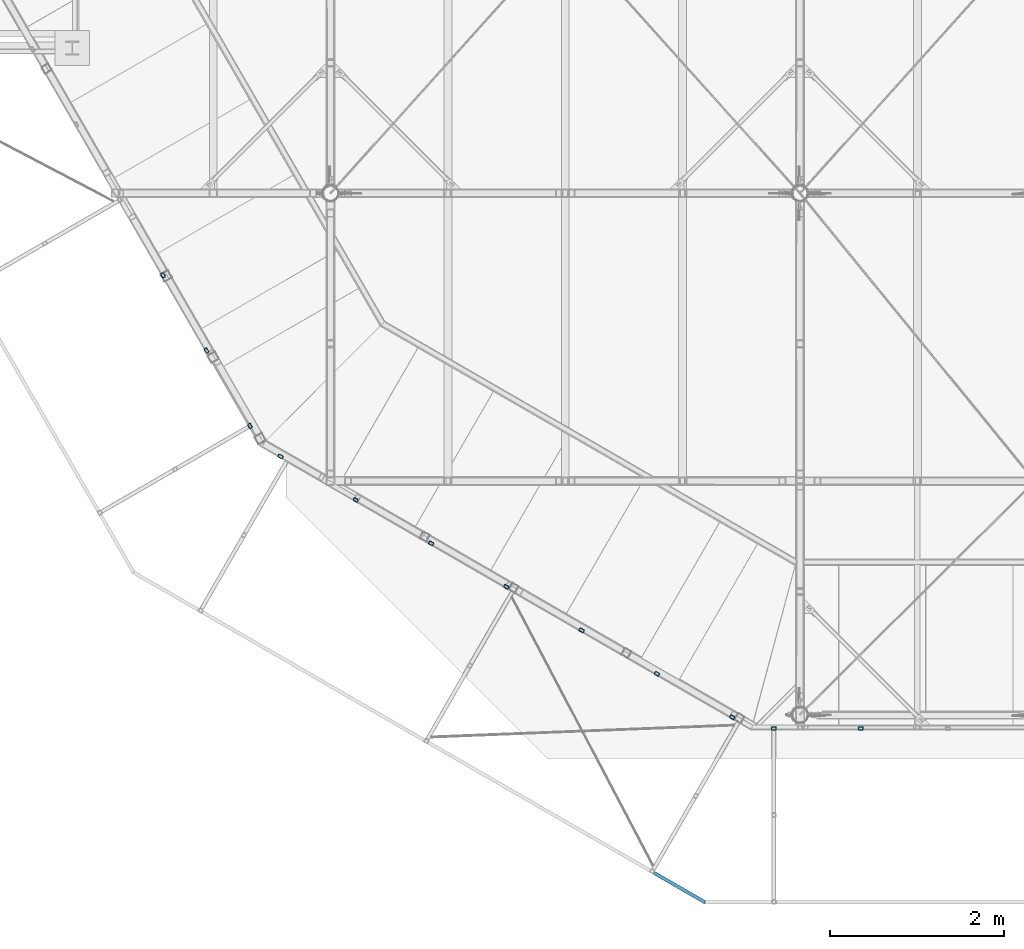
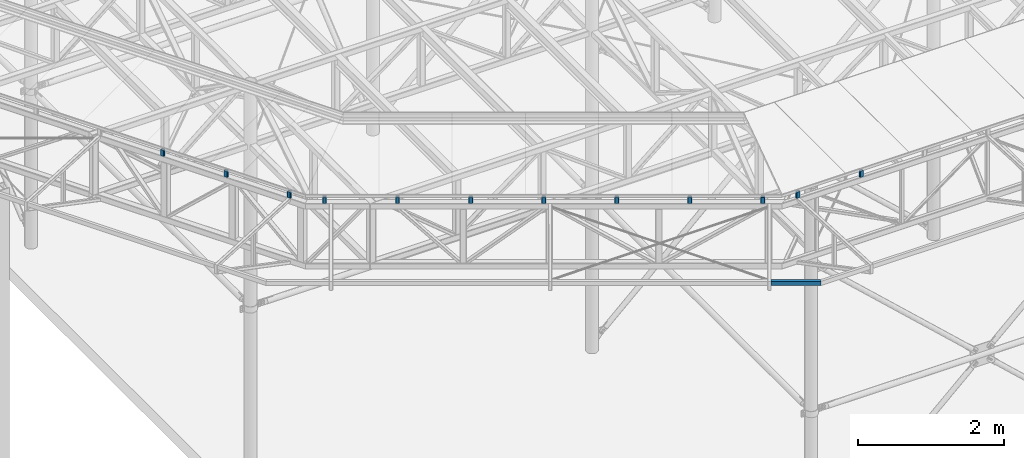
# One storey, part 21 of 132: 13 beams, 13 elements without a shape of their own.
"""IFC2X3 building model written with IfcOpenShell, lengths in millimetres."""

from ifc_helpers import new_model, si_unit, frame, origin_with_axes, origin_2d_with_axis, place, context, subcontext, project, spatial, hollow_rectangle, u_section, extrude, clip, halfspace, material, type_object, element, aggregate, save


model = new_model("IFC2X3")

# Units and contexts
model_context = context("Model", 3, precision=1e-05, world=origin_with_axes())
body_context = subcontext(model_context, "Body", "Model", "MODEL_VIEW")
ifc_project = project(units=[si_unit("LENGTHUNIT", "METRE", prefix="MILLI"), si_unit("AREAUNIT", "SQUARE_METRE"), si_unit("VOLUMEUNIT", "CUBIC_METRE"), si_unit("MASSUNIT", "GRAM", prefix="KILO"), si_unit("TIMEUNIT", "SECOND"), si_unit("PLANEANGLEUNIT", "RADIAN"), si_unit("SOLIDANGLEUNIT", "STERADIAN"), si_unit("THERMODYNAMICTEMPERATUREUNIT", "DEGREE_CELSIUS"), si_unit("LUMINOUSINTENSITYUNIT", "LUMEN")], contexts=[model_context])

# Site, building, storey
site_placement = place(None, origin_with_axes())
site = spatial("IfcSite", under=ifc_project, at=site_placement, Name="Budowa", CompositionType="ELEMENT")
building_placement = place(site_placement, origin_with_axes())
building = spatial("IfcBuilding", under=site, at=building_placement, Name="Undefined", CompositionType="ELEMENT")
storey_placement = place(building_placement, origin_with_axes())
storey = spatial("IfcBuildingStorey", under=building, at=storey_placement, Name="Undefined", CompositionType="ELEMENT", Elevation=0.0)

# Assembly, beam
assembly_1_placement = place(storey_placement, origin_with_axes())
assembly_1 = element("IfcElementAssembly", 1, at=assembly_1_placement, inside=storey, Name="Steel Assembly", AssemblyPlace="NOTDEFINED", PredefinedType="RIGID_FRAME")
ifc_material = material(Name="STEEL/S235")
beam_type_1 = type_object("IfcBeamType", Name="RHS60*40*6", PredefinedType="NOTDEFINED")
beam_1_placement = place(assembly_1_placement, frame((3098.43647414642, 3324.40577576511, 13984.0000000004), z_axis=(0.5000000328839, -0.866025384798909, 0.0), x_axis=(0.0, 0.0, -1.0)))
beam_1 = element("IfcBeam", 2, at=beam_1_placement, type_object=beam_type_1, material=ifc_material, Name="BEAM", ObjectType="RHS60*40*6", context=body_context, shape_type="SweptSolid", body=[
    extrude(hollow_rectangle(XDim=40.0, YDim=60.0, WallThickness=6.0, InnerFilletRadius=6.0, OuterFilletRadius=12.0, at=origin_2d_with_axis()), frame((103.597744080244, 0.0, 0.0), z_axis=(-1.0, 0.0, 0.0), x_axis=(0.0, -1.0, 0.0)), (0.0, 0.0, 1.0), 103.6),
])
aggregate(assembly_1, [beam_1])

assembly_2_placement = place(storey_placement, origin_with_axes())
assembly_2 = element("IfcElementAssembly", 3, at=assembly_2_placement, inside=storey, Name="Steel Assembly", AssemblyPlace="NOTDEFINED", PredefinedType="RIGID_FRAME")
beam_2_placement = place(assembly_2_placement, frame((2598.43644122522, 4190.43116054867, 13984.0000000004), z_axis=(0.5000000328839, -0.866025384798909, 0.0), x_axis=(0.0, 0.0, -1.0)))
beam_2 = element("IfcBeam", 4, at=beam_2_placement, type_object=beam_type_1, material=ifc_material, Name="BEAM", ObjectType="RHS60*40*6", context=body_context, shape_type="SweptSolid", body=[
    extrude(hollow_rectangle(XDim=40.0, YDim=60.0, WallThickness=6.0, InnerFilletRadius=6.0, OuterFilletRadius=12.0, at=origin_2d_with_axis()), frame((103.597744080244, 0.0, 0.0), z_axis=(-1.0, 0.0, 0.0), x_axis=(0.0, -1.0, 0.0)), (0.0, 0.0, 1.0), 103.6),
])
aggregate(assembly_2, [beam_2])

assembly_3_placement = place(storey_placement, origin_with_axes())
assembly_3 = element("IfcElementAssembly", 5, at=assembly_3_placement, inside=storey, Name="Steel Assembly", AssemblyPlace="NOTDEFINED", PredefinedType="RIGID_FRAME")
beam_3_placement = place(assembly_3_placement, frame((2098.43640831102, 5056.45654533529, 13984.0000000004), z_axis=(0.5000000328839, -0.866025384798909, 0.0), x_axis=(0.0, 0.0, -1.0)))
beam_3 = element("IfcBeam", 6, at=beam_3_placement, type_object=beam_type_1, material=ifc_material, Name="BEAM", ObjectType="RHS60*40*6", context=body_context, shape_type="SweptSolid", body=[
    extrude(hollow_rectangle(XDim=40.0, YDim=60.0, WallThickness=6.0, InnerFilletRadius=6.0, OuterFilletRadius=12.0, at=origin_2d_with_axis()), frame((103.597744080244, 0.0, 0.0), z_axis=(-1.0, 0.0, 0.0), x_axis=(0.0, -1.0, 0.0)), (0.0, 0.0, 1.0), 103.6),
])
aggregate(assembly_3, [beam_3])

assembly_4_placement = place(storey_placement, origin_with_axes())
assembly_4 = element("IfcElementAssembly", 7, at=assembly_4_placement, inside=storey, Name="Steel Assembly", AssemblyPlace="NOTDEFINED", PredefinedType="RIGID_FRAME")
beam_4_placement = place(assembly_4_placement, frame((3449.5113122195, 2973.40354669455, 13984.0000000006), z_axis=(0.866042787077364, -0.499969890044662, 0.0), x_axis=(0.0, 0.0, -1.0)))
beam_4 = element("IfcBeam", 8, at=beam_4_placement, type_object=beam_type_1, material=ifc_material, Name="BEAM", ObjectType="RHS60*40*6", context=body_context, shape_type="SweptSolid", body=[
    extrude(hollow_rectangle(XDim=40.0, YDim=60.0, WallThickness=6.0, InnerFilletRadius=6.0, OuterFilletRadius=12.0, at=origin_2d_with_axis()), frame((103.988921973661, 0.0, 0.0), z_axis=(-1.0, 0.0, 0.0), x_axis=(0.0, -1.0, 0.0)), (0.0, 0.0, 1.0), 103.99),
])
aggregate(assembly_4, [beam_4])

assembly_5_placement = place(storey_placement, origin_with_axes())
assembly_5 = element("IfcElementAssembly", 9, at=assembly_5_placement, inside=storey, Name="Steel Assembly", AssemblyPlace="NOTDEFINED", PredefinedType="RIGID_FRAME")
beam_5_placement = place(assembly_5_placement, frame((8645.7680346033, -26.4157937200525, 13984.0000000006), z_axis=(0.866042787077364, -0.499969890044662, 0.0), x_axis=(0.0, 0.0, -1.0)))
beam_5 = element("IfcBeam", 10, at=beam_5_placement, type_object=beam_type_1, material=ifc_material, Name="BEAM", ObjectType="RHS60*40*6", context=body_context, shape_type="SweptSolid", body=[
    extrude(hollow_rectangle(XDim=40.0, YDim=60.0, WallThickness=6.0, InnerFilletRadius=6.0, OuterFilletRadius=12.0, at=origin_2d_with_axis()), frame((103.988921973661, 0.0, 0.0), z_axis=(-1.0, 0.0, 0.0), x_axis=(0.0, -1.0, 0.0)), (0.0, 0.0, 1.0), 103.99),
])
aggregate(assembly_5, [beam_5])

assembly_6_placement = place(storey_placement, origin_with_axes())
assembly_6 = element("IfcElementAssembly", 11, at=assembly_6_placement, inside=storey, Name="Steel Assembly", AssemblyPlace="NOTDEFINED", PredefinedType="RIGID_FRAME")
beam_6_placement = place(assembly_6_placement, frame((7779.72524758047, 473.554096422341, 13984.0000000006), z_axis=(0.866042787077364, -0.499969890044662, 0.0), x_axis=(0.0, 0.0, -1.0)))
beam_6 = element("IfcBeam", 12, at=beam_6_placement, type_object=beam_type_1, material=ifc_material, Name="BEAM", ObjectType="RHS60*40*6", context=body_context, shape_type="SweptSolid", body=[
    extrude(hollow_rectangle(XDim=40.0, YDim=60.0, WallThickness=6.0, InnerFilletRadius=6.0, OuterFilletRadius=12.0, at=origin_2d_with_axis()), frame((103.988921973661, 0.0, 0.0), z_axis=(-1.0, 0.0, 0.0), x_axis=(0.0, -1.0, 0.0)), (0.0, 0.0, 1.0), 103.99),
])
aggregate(assembly_6, [beam_6])

assembly_7_placement = place(storey_placement, origin_with_axes())
assembly_7 = element("IfcElementAssembly", 13, at=assembly_7_placement, inside=storey, Name="Steel Assembly", AssemblyPlace="NOTDEFINED", PredefinedType="RIGID_FRAME")
beam_7_placement = place(assembly_7_placement, frame((4315.55409929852, 2473.43365665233, 13984.0000000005), z_axis=(0.866042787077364, -0.499969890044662, 0.0), x_axis=(0.0, 0.0, -1.0)))
beam_7 = element("IfcBeam", 14, at=beam_7_placement, type_object=beam_type_1, material=ifc_material, Name="BEAM", ObjectType="RHS60*40*6", context=body_context, shape_type="SweptSolid", body=[
    extrude(hollow_rectangle(XDim=40.0, YDim=60.0, WallThickness=6.0, InnerFilletRadius=6.0, OuterFilletRadius=12.0, at=origin_2d_with_axis()), frame((103.988921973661, 0.0, 0.0), z_axis=(-1.0, 0.0, 0.0), x_axis=(0.0, -1.0, 0.0)), (0.0, 0.0, 1.0), 103.99),
])
aggregate(assembly_7, [beam_7])

assembly_8_placement = place(storey_placement, origin_with_axes())
assembly_8 = element("IfcElementAssembly", 15, at=assembly_8_placement, inside=storey, Name="Steel Assembly", AssemblyPlace="NOTDEFINED", PredefinedType="RIGID_FRAME")
beam_8_placement = place(assembly_8_placement, frame((5181.59688639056, 1973.46376663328, 13984.0000000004), z_axis=(0.866042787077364, -0.499969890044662, 0.0), x_axis=(0.0, 0.0, -1.0)))
beam_8 = element("IfcBeam", 16, at=beam_8_placement, type_object=beam_type_1, material=ifc_material, Name="BEAM", ObjectType="RHS60*40*6", context=body_context, shape_type="SweptSolid", body=[
    extrude(hollow_rectangle(XDim=40.0, YDim=60.0, WallThickness=6.0, InnerFilletRadius=6.0, OuterFilletRadius=12.0, at=origin_2d_with_axis()), frame((103.988921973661, 0.0, 0.0), z_axis=(-1.0, 0.0, 0.0), x_axis=(0.0, -1.0, 0.0)), (0.0, 0.0, 1.0), 103.99),
])
aggregate(assembly_8, [beam_8])

assembly_9_placement = place(storey_placement, origin_with_axes())
assembly_9 = element("IfcElementAssembly", 17, at=assembly_9_placement, inside=storey, Name="Steel Assembly", AssemblyPlace="NOTDEFINED", PredefinedType="RIGID_FRAME")
beam_9_placement = place(assembly_9_placement, frame((6913.68246054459, 973.523986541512, 13984.0000000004), z_axis=(0.866042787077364, -0.499969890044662, 0.0), x_axis=(0.0, 0.0, -1.0)))
beam_9 = element("IfcBeam", 18, at=beam_9_placement, type_object=beam_type_1, material=ifc_material, Name="BEAM", ObjectType="RHS60*40*6", context=body_context, shape_type="SweptSolid", body=[
    extrude(hollow_rectangle(XDim=40.0, YDim=60.0, WallThickness=6.0, InnerFilletRadius=6.0, OuterFilletRadius=12.0, at=origin_2d_with_axis()), frame((103.988921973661, 0.0, 0.0), z_axis=(-1.0, 0.0, 0.0), x_axis=(0.0, -1.0, 0.0)), (0.0, 0.0, 1.0), 103.99),
])
aggregate(assembly_9, [beam_9])

assembly_10_placement = place(storey_placement, origin_with_axes())
assembly_10 = element("IfcElementAssembly", 19, at=assembly_10_placement, inside=storey, Name="Steel Assembly", AssemblyPlace="NOTDEFINED", PredefinedType="RIGID_FRAME")
beam_10_placement = place(assembly_10_placement, frame((6047.63967349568, 1473.49387663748, 13984.0000000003), z_axis=(0.866042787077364, -0.499969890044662, 0.0), x_axis=(0.0, 0.0, -1.0)))
beam_10 = element("IfcBeam", 20, at=beam_10_placement, type_object=beam_type_1, material=ifc_material, Name="BEAM", ObjectType="RHS60*40*6", context=body_context, shape_type="SweptSolid", body=[
    extrude(hollow_rectangle(XDim=40.0, YDim=60.0, WallThickness=6.0, InnerFilletRadius=6.0, OuterFilletRadius=12.0, at=origin_2d_with_axis()), frame((103.988921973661, 0.0, 0.0), z_axis=(-1.0, 0.0, 0.0), x_axis=(0.0, -1.0, 0.0)), (0.0, 0.0, 1.0), 103.99),
])
aggregate(assembly_10, [beam_10])

assembly_11_placement = place(storey_placement, origin_with_axes())
assembly_11 = element("IfcElementAssembly", 21, at=assembly_11_placement, inside=storey, Name="Steel Assembly", AssemblyPlace="NOTDEFINED", PredefinedType="RIGID_FRAME")
beam_11_placement = place(assembly_11_placement, frame((9124.8382365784, -154.900000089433, 13984.0000000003), z_axis=(1.0, 0.0, 0.0), x_axis=(0.0, 0.0, -1.0)))
beam_11 = element("IfcBeam", 22, at=beam_11_placement, type_object=beam_type_1, material=ifc_material, Name="BEAM", ObjectType="RHS60*40*6", context=body_context, shape_type="SweptSolid", body=[
    extrude(hollow_rectangle(XDim=40.0, YDim=60.0, WallThickness=6.0, InnerFilletRadius=6.0, OuterFilletRadius=12.0, at=origin_2d_with_axis()), frame((103.937991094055, 0.0, 0.0), z_axis=(-1.0, 0.0, 0.0), x_axis=(0.0, -1.0, 0.0)), (0.0, 0.0, 1.0), 103.94),
])
aggregate(assembly_11, [beam_11])

assembly_12_placement = place(storey_placement, origin_with_axes())
assembly_12 = element("IfcElementAssembly", 23, at=assembly_12_placement, inside=storey, Name="Steel Assembly", AssemblyPlace="NOTDEFINED", PredefinedType="RIGID_FRAME")
beam_12_placement = place(assembly_12_placement, frame((10124.8382365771, -154.900000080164, 13984.0000000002), z_axis=(1.0, 0.0, 0.0), x_axis=(0.0, 0.0, -1.0)))
beam_12 = element("IfcBeam", 24, at=beam_12_placement, type_object=beam_type_1, material=ifc_material, Name="BEAM", ObjectType="RHS60*40*6", context=body_context, shape_type="SweptSolid", body=[
    extrude(hollow_rectangle(XDim=40.0, YDim=60.0, WallThickness=6.0, InnerFilletRadius=6.0, OuterFilletRadius=12.0, at=origin_2d_with_axis()), frame((103.937991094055, 0.0, 0.0), z_axis=(-1.0, 0.0, 0.0), x_axis=(0.0, -1.0, 0.0)), (0.0, 0.0, 1.0), 103.94),
])
aggregate(assembly_12, [beam_12])

assembly_13_placement = place(storey_placement, origin_with_axes())
assembly_13 = element("IfcElementAssembly", 25, at=assembly_13_placement, inside=storey, Name="Steel Assembly", AssemblyPlace="NOTDEFINED", PredefinedType="RIGID_FRAME")
beam_type_2 = type_object("IfcBeamType", Name="C70*40*4", PredefinedType="NOTDEFINED")
beam_13_placement = place(assembly_13_placement, frame((7744.99006177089, -1815.84557086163, 13945.005019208), z_axis=(0.0, 0.0, -1.0), x_axis=(0.866042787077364, -0.499969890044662, 0.0)))
beam_13 = element("IfcBeam", 26, at=beam_13_placement, type_object=beam_type_2, material=ifc_material, Name="BEAM", ObjectType="C70*40*4", context=body_context, shape_type="Clipping", body=[
    clip(extrude(u_section(Depth=70.0, FlangeWidth=40.0, WebThickness=4.0, FlangeThickness=4.0, FilletRadius=6.0, at=origin_2d_with_axis()), frame((710.63006842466, -3.94478931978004e-14, 0.0), z_axis=(-1.0, 0.0, 0.0), x_axis=(0.0, -1.0, 0.0)), (0.0, 0.0, 1.0), 710.63), halfspace(frame((672.991860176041, -20.000000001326, 2.93021003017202e-08), z_axis=(-0.96593032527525, 0.258802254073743, 0.0), x_axis=(0.0, 0.0, -1.0)), True)),
])
aggregate(assembly_13, [beam_13])

save(model, "model.ifc")
